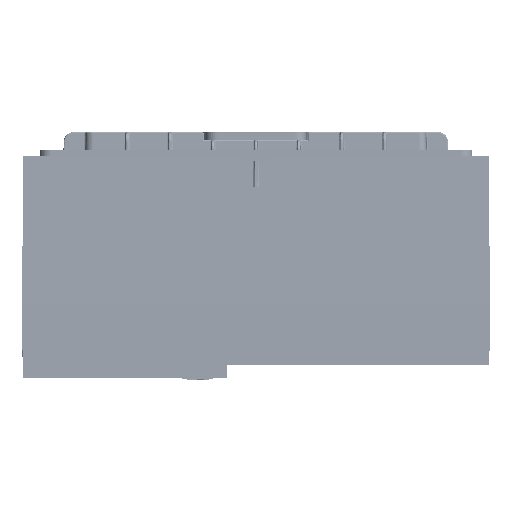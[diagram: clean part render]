
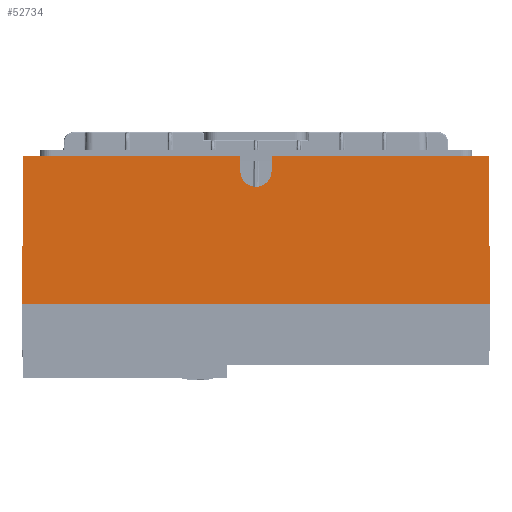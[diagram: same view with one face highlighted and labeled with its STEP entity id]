
A CAD part, front view. The second image highlights one B-rep face of the part: STEP entity #52734.
In plain terms, the highlighted planar face has unit normal (0, -1, 0.009).
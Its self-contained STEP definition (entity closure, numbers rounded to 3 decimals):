
#44480=DIRECTION('',(0.,0.009,1.));
#44481=VECTOR('',#44480,4.);
#44482=CARTESIAN_POINT('',(-4.,-59.727,32.664));
#44483=LINE('',#44482,#44481);
#44484=CARTESIAN_POINT('',(4.,-59.727,
32.665));
#44485=CARTESIAN_POINT('',(4.,-59.731,
32.193));
#44486=CARTESIAN_POINT('',(3.829,-59.74,
31.175));
#44487=CARTESIAN_POINT('',(2.912,-59.752,
29.751));
#44488=CARTESIAN_POINT('',(1.729,-59.759,
28.988));
#44489=CARTESIAN_POINT('',(0.722,-59.761,
28.707));
#44490=CARTESIAN_POINT('',(0.,-59.762,
28.643));
#44491=CARTESIAN_POINT('',(-0.722,-59.761,
28.707));
#44492=CARTESIAN_POINT('',(-1.729,-59.759,
28.988));
#44493=CARTESIAN_POINT('',(-2.912,-59.752,
29.751));
#44494=CARTESIAN_POINT('',(-3.829,-59.74,
31.175));
#44495=CARTESIAN_POINT('',(-4.,-59.731,
32.193));
#44496=CARTESIAN_POINT('',(-4.,-59.727,
32.665));
#44506=DIRECTION('',(-1.,0.,0.));
#44507=VECTOR('',#44506,120.047);
#44508=CARTESIAN_POINT('',(60.037,-60.023,
-1.336));
#44509=LINE('',#44508,#44507);
#44510=DIRECTION('',(0.009,0.009,1.));
#44511=VECTOR('',#44510,38.003);
#44512=CARTESIAN_POINT('',(-60.009,-60.023,
-1.336));
#44513=LINE('',#44512,#44511);
#44522=DIRECTION('',(0.,-0.009,-1.));
#44523=VECTOR('',#44522,4.);
#44524=CARTESIAN_POINT('',(4.,-59.692,36.664));
#44525=LINE('',#44524,#44523);
#44542=DIRECTION('',(-1.,0.,0.));
#44543=VECTOR('',#44542,55.706);
#44544=CARTESIAN_POINT('',(59.706,-59.692,
36.664));
#44545=LINE('',#44544,#44543);
#44633=DIRECTION('',(-0.009,0.009,1.));
#44634=VECTOR('',#44633,38.003);
#44635=CARTESIAN_POINT('',(60.037,-60.023,
-1.336));
#44636=LINE('',#44635,#44634);
#44918=DIRECTION('',(-1.,0.,0.));
#44919=VECTOR('',#44918,55.678);
#44920=CARTESIAN_POINT('',(-4.,-59.692,36.664));
#44921=LINE('',#44920,#44919);
#50390=CARTESIAN_POINT('',(-60.009,-60.023,
-1.336));
#50392=VERTEX_POINT('',#50390);
#50393=CARTESIAN_POINT('',(60.037,-60.023,
-1.336));
#50394=VERTEX_POINT('',#50393);
#50433=CARTESIAN_POINT('',(-59.678,-59.692,
36.664));
#50434=VERTEX_POINT('',#50433);
#50490=CARTESIAN_POINT('',(59.706,-59.692,
36.664));
#50491=VERTEX_POINT('',#50490);
#50492=CARTESIAN_POINT('',(4.,-59.692,36.664));
#50493=VERTEX_POINT('',#50492);
#50550=CARTESIAN_POINT('',(-4.,-59.692,36.664));
#50551=VERTEX_POINT('',#50550);
#50587=VERTEX_POINT('',#44484);
#50588=VERTEX_POINT('',#44496);
#52715=CARTESIAN_POINT('',(62.159,-60.,1.333));
#52716=DIRECTION('',(0.,1.,-0.009));
#52717=DIRECTION('',(1.,0.,0.));
#52718=AXIS2_PLACEMENT_3D('',#52715,#52716,#52717);
#52719=PLANE('',#52718);
#52720=ORIENTED_EDGE('',*,*,#52706,.F.);
#52722=ORIENTED_EDGE('',*,*,#52721,.F.);
#52724=ORIENTED_EDGE('',*,*,#52723,.F.);
#52726=ORIENTED_EDGE('',*,*,#52725,.F.);
#52727=ORIENTED_EDGE('',*,*,#51569,.T.);
#52728=ORIENTED_EDGE('',*,*,#51873,.T.);
#52730=ORIENTED_EDGE('',*,*,#52729,.F.);
#52731=ORIENTED_EDGE('',*,*,#52692,.F.);
#52732=EDGE_LOOP('',(#52720,#52722,#52724,#52726,#52727,#52728,#52730,#52731));
#52733=FACE_OUTER_BOUND('',#52732,.F.);
#44497=B_SPLINE_CURVE_WITH_KNOTS('',3,(#44484,#44485,#44486,#44487,#44488,
#44489,#44490,#44491,#44492,#44493,#44494,#44495,#44496),.UNSPECIFIED.,.F.,.F.,(
4,1,1,1,1,1,1,1,1,1,4),(0.,0.125,0.25,0.375,0.438,0.5,0.563,
0.625,0.75,0.875,1.),.UNSPECIFIED.);
#51569=EDGE_CURVE('',#50394,#50392,#44509,.T.);
#51873=EDGE_CURVE('',#50392,#50434,#44513,.T.);
#52692=EDGE_CURVE('',#50588,#50551,#44483,.T.);
#52706=EDGE_CURVE('',#50587,#50588,#44497,.T.);
#52721=EDGE_CURVE('',#50493,#50587,#44525,.T.);
#52723=EDGE_CURVE('',#50491,#50493,#44545,.T.);
#52725=EDGE_CURVE('',#50394,#50491,#44636,.T.);
#52729=EDGE_CURVE('',#50551,#50434,#44921,.T.);
#52734=ADVANCED_FACE('',(#52733),#52719,.F.);
